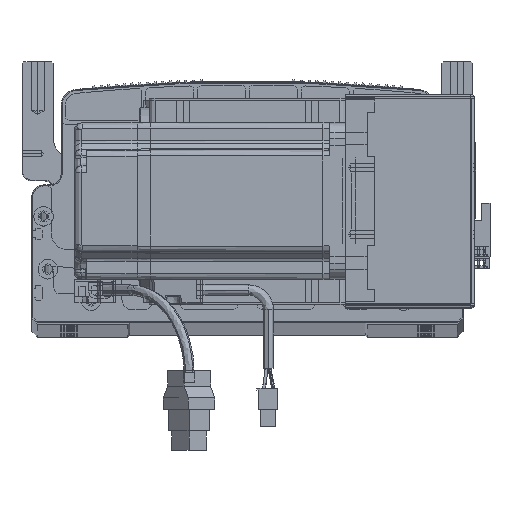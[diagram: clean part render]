
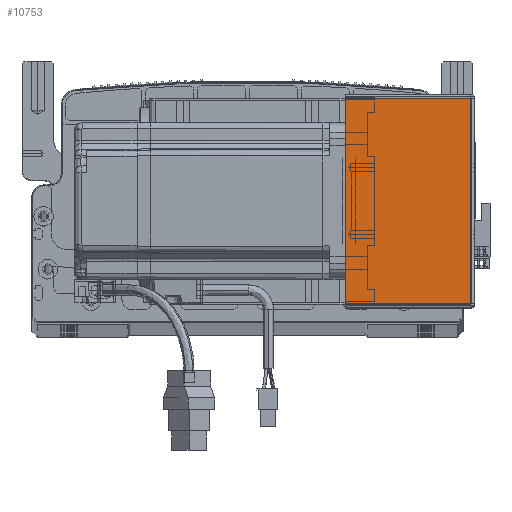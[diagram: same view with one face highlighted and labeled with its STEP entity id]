
A CAD part, top view. The second image highlights one B-rep face of the part: STEP entity #10753.
In plain terms, the highlighted planar face has unit normal (0, 0, 1) as drawn and (0, 0, -1) by its records, which use the part's own axes.
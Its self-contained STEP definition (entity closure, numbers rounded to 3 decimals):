
#1066 = CARTESIAN_POINT ( 'NONE',  ( 0., 0.707, -205.5 ) ) ;
#1398 = CARTESIAN_POINT ( 'NONE',  ( 64.5, 105.293, -205.5 ) ) ;
#4483 = EDGE_CURVE ( 'NONE', #52026, #7272, #14520, .T. ) ;
#4741 = ORIENTED_EDGE ( 'NONE', *, *, #77246, .F. ) ;
#7272 = VERTEX_POINT ( 'NONE', #83532 ) ;
#9641 = ORIENTED_EDGE ( 'NONE', *, *, #4483, .F. ) ;
#9662 = EDGE_LOOP ( 'NONE', ( #4741, #24415, #84659, #9641 ) ) ;
#10753 = ADVANCED_FACE ( 'NONE', ( #58973 ), #36769, .F. ) ;
#11003 = LINE ( 'NONE', #98796, #48969 ) ;
#11236 = CARTESIAN_POINT ( 'NONE',  ( 0., 0., -205.5 ) ) ;
#14422 = DIRECTION ( 'NONE',  ( 0., -1., 0. ) ) ;
#14520 = LINE ( 'NONE', #1066, #28489 ) ;
#17378 = CARTESIAN_POINT ( 'NONE',  ( 0.737, 105.293, -205.5 ) ) ;
#18514 = DIRECTION ( 'NONE',  ( 1., 0., 0. ) ) ;
#24415 = ORIENTED_EDGE ( 'NONE', *, *, #35134, .T. ) ;
#28489 = VECTOR ( 'NONE', #50194, 1000. ) ;
#35134 = EDGE_CURVE ( 'NONE', #64783, #89271, #11003, .T. ) ;
#36769 = PLANE ( 'NONE',  #86538 ) ;
#41568 = CARTESIAN_POINT ( 'NONE',  ( 0.737, 0.707, -205.5 ) ) ;
#48969 = VECTOR ( 'NONE', #18514, 1000. ) ;
#50194 = DIRECTION ( 'NONE',  ( 1., 0., 0. ) ) ;
#52026 = VERTEX_POINT ( 'NONE', #41568 ) ;
#52554 = DIRECTION ( 'NONE',  ( 0., -1., 0. ) ) ;
#58973 = FACE_OUTER_BOUND ( 'NONE', #9662, .T. ) ;
#60114 = DIRECTION ( 'NONE',  ( 0., 0., 1. ) ) ;
#60467 = DIRECTION ( 'NONE',  ( 1., 0., 0. ) ) ;
#62919 = CARTESIAN_POINT ( 'NONE',  ( 0.737, 0., -205.5 ) ) ;
#64783 = VERTEX_POINT ( 'NONE', #17378 ) ;
#66539 = LINE ( 'NONE', #68874, #80360 ) ;
#68874 = CARTESIAN_POINT ( 'NONE',  ( 64.5, 0., -205.5 ) ) ;
#77246 = EDGE_CURVE ( 'NONE', #64783, #52026, #86293, .T. ) ;
#80360 = VECTOR ( 'NONE', #52554, 1000. ) ;
#83532 = CARTESIAN_POINT ( 'NONE',  ( 64.5, 0.707, -205.5 ) ) ;
#83776 = VECTOR ( 'NONE', #14422, 1000. ) ;
#84659 = ORIENTED_EDGE ( 'NONE', *, *, #100306, .T. ) ;
#86293 = LINE ( 'NONE', #62919, #83776 ) ;
#86538 = AXIS2_PLACEMENT_3D ( 'NONE', #11236, #60114, #60467 ) ;
#89271 = VERTEX_POINT ( 'NONE', #1398 ) ;
#98796 = CARTESIAN_POINT ( 'NONE',  ( 0., 105.293, -205.5 ) ) ;
#100306 = EDGE_CURVE ( 'NONE', #89271, #7272, #66539, .T. ) ;
